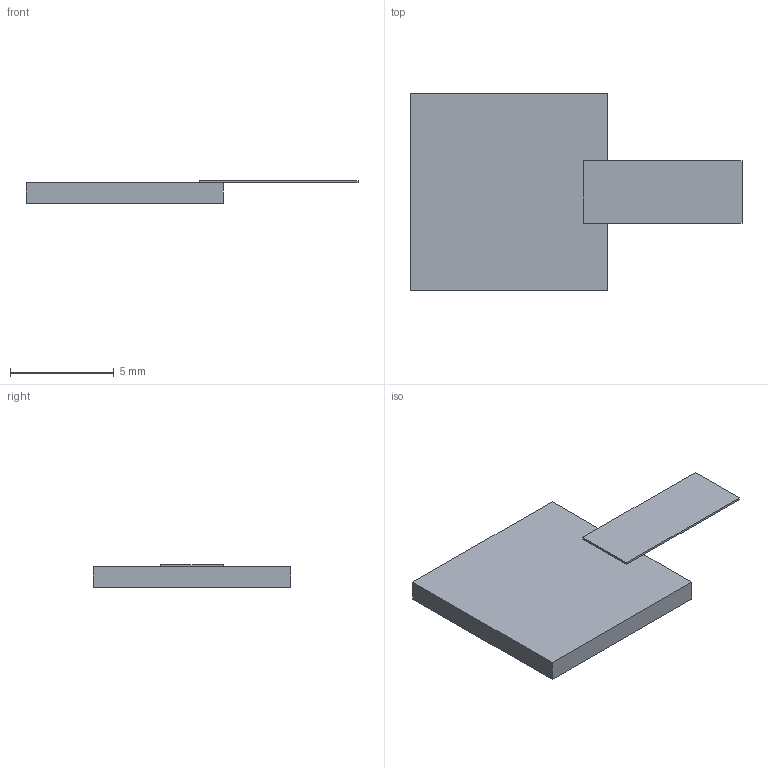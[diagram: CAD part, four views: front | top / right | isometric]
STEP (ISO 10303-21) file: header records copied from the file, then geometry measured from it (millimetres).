
FILE_DESCRIPTION(('STEP AP203'), '1');
FILE_NAME('P1-170-250-41', '', ('UNSPECIFIED'), ('UNSPECIFIED'), 'ASCON STEP Converter 1.6', 'ASCON Math Kernel', '');
FILE_SCHEMA(('CONFIG_CONTROL_DESIGN'));
Length unit declared in the file: millimetre
Bounding box: 16 x 9.5 x 1.1 mm (x, y, z)
Volume: 92.5 mm3; surface area: 259.6 mm2
Topology: 1 solids, 1 shells, 12 faces, 28 edges, 18 vertices
Faces by surface type: plane 12
Entity records: 476 total; most frequent: CARTESIAN_POINT 59, ORIENTED_EDGE 56, DIRECTION 54, EDGE_CURVE 28, LINE 28, VECTOR 28, VERTEX_POINT 18, AXIS2_PLACEMENT_3D 13
